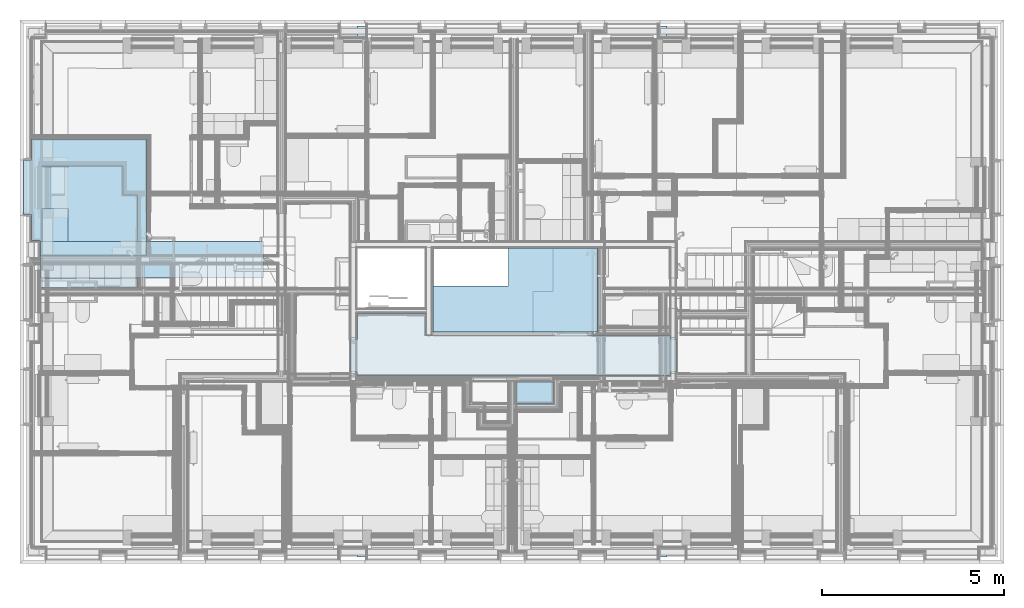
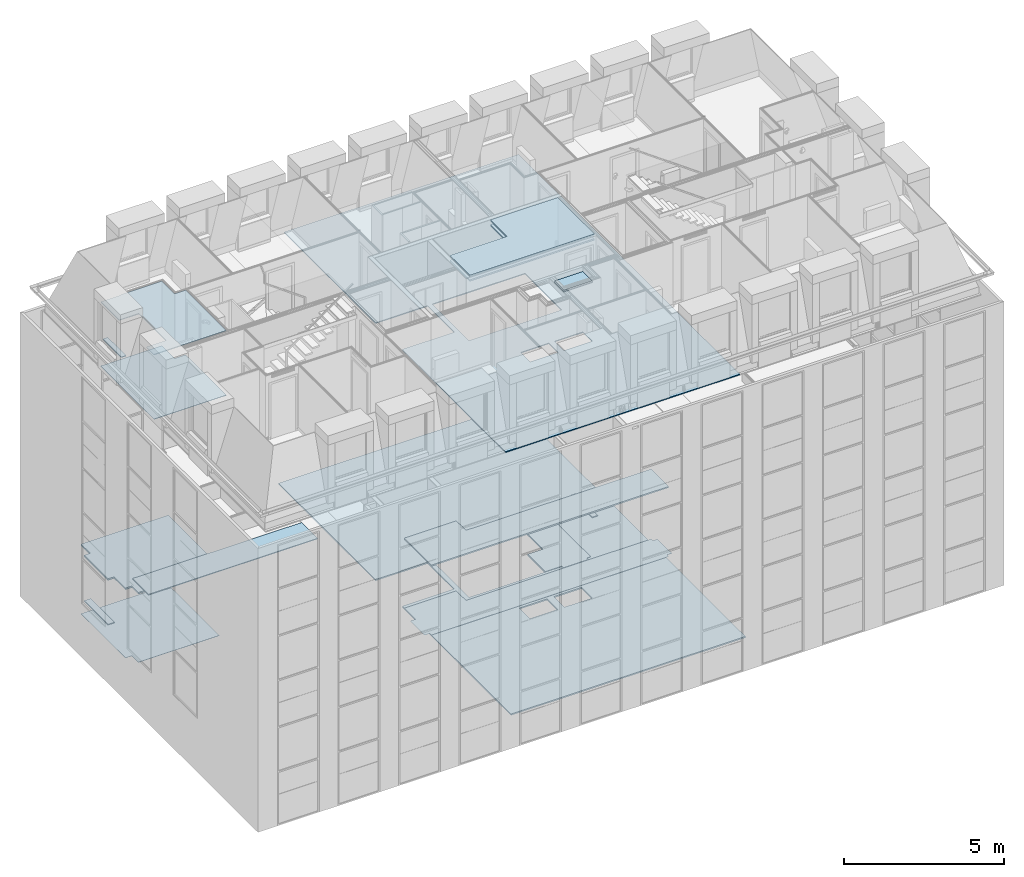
# One storey, part 72 of 169: 24 slabs.
"""IFC2X3 building model written with IfcOpenShell, lengths in metres."""

from ifc_helpers import new_model, entity, si_unit, converted_unit, derived_unit, money_unit, direction, frame, origin_with_axes, place, context, subcontext, project, spatial, faceted_brep, material, type_object, element, save


model = new_model("IFC2X3")

# Units and contexts
model_context = context("Model", 3, precision=1e-05, world=origin_with_axes(), true_north=direction((0.0, 1.0)))
body_context = subcontext(model_context, "Body", "Model", "MODEL_VIEW", scale=1.0)
ifc_project = project(units=[si_unit("LENGTHUNIT", "METRE"), si_unit("AREAUNIT", "SQUARE_METRE"), si_unit("VOLUMEUNIT", "CUBIC_METRE"), si_unit("ABSORBEDDOSEUNIT", "GRAY"), si_unit("AMOUNTOFSUBSTANCEUNIT", "MOLE"), si_unit("DOSEEQUIVALENTUNIT", "SIEVERT"), si_unit("ELECTRICCAPACITANCEUNIT", "FARAD"), si_unit("ELECTRICCHARGEUNIT", "COULOMB"), si_unit("ELECTRICCONDUCTANCEUNIT", "SIEMENS"), si_unit("ELECTRICCURRENTUNIT", "AMPERE"), si_unit("ELECTRICRESISTANCEUNIT", "OHM"), si_unit("ELECTRICVOLTAGEUNIT", "VOLT"), si_unit("ENERGYUNIT", "JOULE"), si_unit("FORCEUNIT", "NEWTON"), si_unit("FREQUENCYUNIT", "HERTZ"), si_unit("ILLUMINANCEUNIT", "LUX"), si_unit("INDUCTANCEUNIT", "HENRY"), si_unit("LUMINOUSFLUXUNIT", "LUMEN"), si_unit("LUMINOUSINTENSITYUNIT", "CANDELA"), si_unit("MAGNETICFLUXDENSITYUNIT", "TESLA"), si_unit("MAGNETICFLUXUNIT", "WEBER"), si_unit("MASSUNIT", "GRAM"), converted_unit("PLANEANGLEUNIT", "degree", entity("IfcReal", 0.0174532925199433), si_unit("PLANEANGLEUNIT", "RADIAN"), dimensions=[0, 0, 0, 0, 0, 0, 0]), si_unit("POWERUNIT", "WATT"), si_unit("PRESSUREUNIT", "PASCAL"), si_unit("RADIOACTIVITYUNIT", "BECQUEREL"), si_unit("SOLIDANGLEUNIT", "STERADIAN"), si_unit("THERMODYNAMICTEMPERATUREUNIT", "KELVIN"), si_unit("TIMEUNIT", "SECOND"), derived_unit("ACCELERATIONUNIT", [(si_unit("LENGTHUNIT", "METRE"), 1), (si_unit("TIMEUNIT", "SECOND"), -2)]), derived_unit("ANGULARVELOCITYUNIT", [(converted_unit("PLANEANGLEUNIT", "degree", entity("IfcReal", 0.0174532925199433), si_unit("PLANEANGLEUNIT", "RADIAN"), dimensions=[0, 0, 0, 0, 0, 0, 0]), 1), (si_unit("TIMEUNIT", "SECOND"), -1)]), derived_unit("CURVATUREUNIT", [(converted_unit("PLANEANGLEUNIT", "degree", entity("IfcReal", 0.0174532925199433), si_unit("PLANEANGLEUNIT", "RADIAN"), dimensions=[0, 0, 0, 0, 0, 0, 0]), 1), (si_unit("LENGTHUNIT", "METRE"), -1)]), derived_unit("DYNAMICVISCOSITYUNIT", [(si_unit("PRESSUREUNIT", "PASCAL"), 1), (si_unit("TIMEUNIT", "SECOND"), 1)]), derived_unit("HEATFLUXDENSITYUNIT", [(si_unit("POWERUNIT", "WATT"), 1), (si_unit("LENGTHUNIT", "METRE"), -2)]), derived_unit("HEATINGVALUEUNIT", [(si_unit("ENERGYUNIT", "JOULE"), 1), (si_unit("MASSUNIT", "GRAM"), -1)]), derived_unit("INTEGERCOUNTRATEUNIT", [(si_unit("TIMEUNIT", "SECOND"), -1)]), derived_unit("IONCONCENTRATIONUNIT", [(si_unit("MASSUNIT", "GRAM"), 1), (si_unit("VOLUMEUNIT", "CUBIC_METRE"), -1)]), derived_unit("ISOTHERMALMOISTURECAPACITYUNIT", [(si_unit("VOLUMEUNIT", "CUBIC_METRE"), 1), (si_unit("MASSUNIT", "GRAM"), -1)]), derived_unit("KINEMATICVISCOSITYUNIT", [(si_unit("AREAUNIT", "SQUARE_METRE"), 1), (si_unit("TIMEUNIT", "SECOND"), -1)]), derived_unit("LINEARFORCEUNIT", [(si_unit("FORCEUNIT", "NEWTON"), 1), (si_unit("LENGTHUNIT", "METRE"), -1)]), derived_unit("LINEARMOMENTUNIT", [(si_unit("FORCEUNIT", "NEWTON"), 1), (si_unit("LENGTHUNIT", "METRE"), -1)]), derived_unit("LINEARSTIFFNESSUNIT", [(si_unit("FORCEUNIT", "NEWTON"), 1), (si_unit("LENGTHUNIT", "METRE"), -1)]), derived_unit("LINEARVELOCITYUNIT", [(si_unit("LENGTHUNIT", "METRE"), 1), (si_unit("TIMEUNIT", "SECOND"), -1)]), derived_unit("LUMINOUSINTENSITYDISTRIBUTIONUNIT", [(si_unit("LUMINOUSINTENSITYUNIT", "CANDELA"), 1), (si_unit("LUMINOUSFLUXUNIT", "LUMEN"), -1)]), derived_unit("MASSDENSITYUNIT", [(si_unit("MASSUNIT", "GRAM"), 1), (si_unit("VOLUMEUNIT", "CUBIC_METRE"), -1)]), derived_unit("MASSFLOWRATEUNIT", [(si_unit("MASSUNIT", "GRAM"), 1), (si_unit("TIMEUNIT", "SECOND"), -1)]), derived_unit("MASSPERLENGTHUNIT", [(si_unit("MASSUNIT", "GRAM"), 1), (si_unit("LENGTHUNIT", "METRE"), -1)]), derived_unit("MODULUSOFELASTICITYUNIT", [(si_unit("FORCEUNIT", "NEWTON"), 1), (si_unit("AREAUNIT", "SQUARE_METRE"), -1)]), derived_unit("MODULUSOFLINEARSUBGRADEREACTIONUNIT", [(si_unit("FORCEUNIT", "NEWTON"), 1), (si_unit("LENGTHUNIT", "METRE"), -2)]), derived_unit("MODULUSOFROTATIONALSUBGRADEREACTIONUNIT", [(si_unit("FORCEUNIT", "NEWTON"), 1), (si_unit("LENGTHUNIT", "METRE"), 1)]), derived_unit("MODULUSOFSUBGRADEREACTIONUNIT", [(si_unit("FORCEUNIT", "NEWTON"), 1), (si_unit("VOLUMEUNIT", "CUBIC_METRE"), -1)]), derived_unit("MOISTUREDIFFUSIVITYUNIT", [(si_unit("VOLUMEUNIT", "CUBIC_METRE"), 1), (si_unit("TIMEUNIT", "SECOND"), -1)]), derived_unit("MOLECULARWEIGHTUNIT", [(si_unit("MASSUNIT", "GRAM"), 1), (si_unit("AMOUNTOFSUBSTANCEUNIT", "MOLE"), -1)]), derived_unit("PLANARFORCEUNIT", [(si_unit("FORCEUNIT", "NEWTON"), 1), (si_unit("LENGTHUNIT", "METRE"), -2)]), derived_unit("ROTATIONALFREQUENCYUNIT", [(si_unit("TIMEUNIT", "SECOND"), -1)]), derived_unit("ROTATIONALMASSUNIT", [(si_unit("MASSUNIT", "GRAM"), 1), (si_unit("LENGTHUNIT", "METRE"), 2)]), derived_unit("ROTATIONALSTIFFNESSUNIT", [(si_unit("FORCEUNIT", "NEWTON"), 1), (si_unit("LENGTHUNIT", "METRE"), 1), (converted_unit("PLANEANGLEUNIT", "degree", entity("IfcReal", 0.0174532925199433), si_unit("PLANEANGLEUNIT", "RADIAN"), dimensions=[0, 0, 0, 0, 0, 0, 0]), -1)]), derived_unit("SECTIONAREAINTEGRALUNIT", [(si_unit("LENGTHUNIT", "METRE"), 5)]), derived_unit("SECTIONMODULUSUNIT", [(si_unit("LENGTHUNIT", "METRE"), 3)]), derived_unit("SHEARMODULUSUNIT", [(si_unit("FORCEUNIT", "NEWTON"), 1), (si_unit("AREAUNIT", "SQUARE_METRE"), -1)]), derived_unit("SOUNDPOWERUNIT", [(si_unit("ENERGYUNIT", "JOULE"), 1), (si_unit("TIMEUNIT", "SECOND"), -1)]), derived_unit("SPECIFICHEATCAPACITYUNIT", [(si_unit("FORCEUNIT", "NEWTON"), 1), (si_unit("MASSUNIT", "GRAM"), -1), (si_unit("THERMODYNAMICTEMPERATUREUNIT", "KELVIN"), -1)]), derived_unit("TEMPERATUREGRADIENTUNIT", [(si_unit("THERMODYNAMICTEMPERATUREUNIT", "KELVIN"), 1), (si_unit("LENGTHUNIT", "METRE"), -1)]), derived_unit("THERMALADMITTANCEUNIT", [(si_unit("POWERUNIT", "WATT"), 1), (si_unit("AREAUNIT", "SQUARE_METRE"), -1), (si_unit("THERMODYNAMICTEMPERATUREUNIT", "KELVIN"), -1)]), derived_unit("THERMALCONDUCTANCEUNIT", [(si_unit("POWERUNIT", "WATT"), 1), (si_unit("LENGTHUNIT", "METRE"), -1), (si_unit("THERMODYNAMICTEMPERATUREUNIT", "KELVIN"), -1)]), derived_unit("THERMALEXPANSIONCOEFFICIENTUNIT", [(si_unit("THERMODYNAMICTEMPERATUREUNIT", "KELVIN"), -1)]), derived_unit("THERMALRESISTANCEUNIT", [(si_unit("AREAUNIT", "SQUARE_METRE"), 1), (si_unit("POWERUNIT", "WATT"), -1)]), derived_unit("THERMALTRANSMITTANCEUNIT", [(si_unit("POWERUNIT", "WATT"), 1), (si_unit("AREAUNIT", "SQUARE_METRE"), -1), (si_unit("THERMODYNAMICTEMPERATUREUNIT", "KELVIN"), -1)]), derived_unit("TORQUEUNIT", [(si_unit("FORCEUNIT", "NEWTON"), 1), (si_unit("LENGTHUNIT", "METRE"), 1)]), derived_unit("VAPORPERMEABILITYUNIT", [(si_unit("MASSUNIT", "GRAM"), 1), (si_unit("TIMEUNIT", "SECOND"), -1)]), derived_unit("VOLUMETRICFLOWRATEUNIT", [(si_unit("VOLUMEUNIT", "CUBIC_METRE"), 1), (si_unit("TIMEUNIT", "SECOND"), -1)]), derived_unit("WARPINGCONSTANTUNIT", [(si_unit("LENGTHUNIT", "METRE"), 6)]), derived_unit("WARPINGMOMENTUNIT", [(si_unit("FORCEUNIT", "NEWTON"), 1), (si_unit("LENGTHUNIT", "METRE"), 2)]), money_unit("GBP")], contexts=[model_context])

# Site, building, storey
site_placement = place(None, origin_with_axes())
site = spatial("IfcSite", under=ifc_project, at=site_placement, Name="Site", CompositionType="ELEMENT")
building_placement = place(site_placement, origin_with_axes())
building = spatial("IfcBuilding", under=site, at=building_placement, Name="Building01", CompositionType="ELEMENT")
storey_placement = place(building_placement, frame((0.0, 0.0, 5.15), z_axis=(0.0, 0.0, 1.0), x_axis=(1.0, 0.0, 0.0)))
storey = spatial("IfcBuildingStorey", under=building, at=storey_placement, Name="1F", CompositionType="ELEMENT", Elevation=5.15)

# Slabs
ifc_material_1 = material(Name="A_BSUK_InternalFinishes_FloorScreed")
slab_type_1 = type_object("IfcSlabType", Name="A-FloorsSlabs A_BSUK_Slabs", PredefinedType="FLOOR")
placement = place(storey_placement, frame((0.0, 0.0, -5.15), z_axis=(0.0, 0.0, 1.0), x_axis=(1.0, 0.0, 0.0)))
element("IfcSlab", 1, at=placement, inside=storey, type_object=slab_type_1, material=ifc_material_1, Name="A-FloorsSlabs A_BSUK_Slabs", ObjectType="CompoundSlabLeaf", context=body_context, shape_type="Brep", body=[
    faceted_brep([(11.13, 8.65, 5.15), (11.13, 6.98, 5.15), (9.25, 6.98, 5.15), (9.25, 0.17, 5.15), (17.73, 0.17, 5.15), (17.73, 14.73, 5.15), (9.25, 14.73, 5.15), (9.25, 8.65, 5.15), (13.375, 5.05385, 5.15), (13.375, 4.389428, 5.15), (12.375, 4.389428, 5.15), (12.375, 5.05385, 5.15), (14.625, 5.05385, 5.15), (14.625, 4.389428, 5.15), (13.625, 4.389428, 5.15), (13.625, 5.05385, 5.15), (14.059316, 6.35, 5.15), (11.3, 6.35, 5.15), (11.3, 8.65, 5.15), (14.609584, 8.65, 5.15), (14.609584, 7.454282, 5.15), (14.059316, 7.454282, 5.15), (11.13, 8.65, 5.1), (9.25, 8.65, 5.1), (9.25, 14.73, 5.1), (17.73, 14.73, 5.1), (17.73, 0.17, 5.1), (9.25, 0.17, 5.1), (9.25, 6.98, 5.1), (11.13, 6.98, 5.1), (13.375, 5.05385, 5.1), (12.375, 5.05385, 5.1), (12.375, 4.389428, 5.1), (13.375, 4.389428, 5.1), (14.059316, 6.35, 5.1), (14.059316, 7.454282, 5.1), (14.609584, 7.454282, 5.1), (14.609584, 8.65, 5.1), (11.3, 8.65, 5.1), (11.3, 6.35, 5.1), (14.625, 5.05385, 5.1), (13.625, 5.05385, 5.1), (13.625, 4.389428, 5.1), (14.625, 4.389428, 5.1)], [[[0, 1, 2, 3, 4, 5, 6, 7], [8, 9, 10, 11], [12, 13, 14, 15], [16, 17, 18, 19, 20, 21]], [[22, 23, 24, 25, 26, 27, 28, 29], [30, 31, 32, 33], [34, 35, 36, 37, 38, 39], [40, 41, 42, 43]], [[23, 7, 6, 24]], [[2, 28, 27, 3]], [[35, 21, 20, 36]], [[24, 6, 5, 25]], [[26, 4, 3, 27]], [[25, 5, 4, 26]], [[15, 41, 40, 12]], [[12, 40, 43, 13]], [[13, 43, 42, 14]], [[14, 42, 41, 15]], [[11, 31, 30, 8]], [[8, 30, 33, 9]], [[9, 33, 32, 10]], [[10, 32, 31, 11]], [[18, 38, 37, 19]], [[19, 37, 36, 20]], [[17, 39, 38, 18]], [[16, 34, 39, 17]], [[21, 35, 34, 16]], [[0, 22, 29, 1]], [[7, 23, 22, 0]], [[1, 29, 28, 2]]]),
])
ifc_material_2 = material(Name="A_BSUK_Ceramic_WallTiles")
element("IfcSlab", 2, at=placement, inside=storey, type_object=slab_type_1, material=ifc_material_2, Name="A-FloorsSlabs A_BSUK_Slabs", ObjectType="CompoundSlabLeaf", context=body_context, shape_type="Brep", body=[
    faceted_brep([(16.03, 6.475, 6.525), (16.03, 6.475, 6.55), (15.83, 6.475, 6.55), (15.83, 6.475, 6.525), (16.03, 7.849998, 6.525), (16.03, 7.849998, 6.55), (15.830003, 7.85, 6.525), (15.830003, 7.85, 6.55)], [[[0, 1, 2, 3]], [[4, 5, 1, 0]], [[6, 7, 5, 4]], [[3, 2, 7, 6]], [[1, 5, 7, 2]], [[3, 6, 4, 0]]]),
])
ifc_material_3 = material(Name="A_BSUK_ExpandedPolystyreneBoards")
element("IfcSlab", 3, at=placement, inside=storey, type_object=slab_type_1, material=ifc_material_3, Name="A-FloorsSlabs A_BSUK_Slabs", ObjectType="CompoundSlabLeaf", context=body_context, shape_type="Brep", body=[
    faceted_brep([(9.25, 6.15, 5.15), (9.25, 6.15, 5.153), (9.25, 6.85, 5.153), (9.25, 6.85, 5.15), (9.06, 6.15, 5.15), (9.06, 6.15, 5.153), (9.06, 5.25, 5.15), (9.06, 5.25, 5.153), (9.25, 5.25, 5.15), (9.25, 5.25, 5.153), (9.25, 5.15, 5.15), (9.25, 5.15, 5.153), (17.83, 5.15, 5.15), (17.83, 5.15, 5.153), (17.83, 5.25, 5.15), (17.83, 5.25, 5.153), (18.0, 5.25, 5.15), (18.0, 5.25, 5.153), (18.0, 6.15, 5.15), (18.0, 6.15, 5.153), (17.83, 6.15, 5.15), (17.83, 6.15, 5.153), (17.83, 6.25, 5.15), (17.83, 6.25, 5.153), (15.558, 6.25, 5.15), (15.558, 6.25, 5.153), (15.558, 6.35, 5.15), (15.558, 6.35, 5.153), (15.6, 6.35, 5.15), (15.6, 6.35, 5.153), (15.7, 6.35, 5.15), (15.7, 6.35, 5.153), (15.7, 8.65, 5.15), (15.7, 8.65, 5.153), (14.609584, 8.65, 5.15), (14.609584, 8.65, 5.153), (14.609584, 7.454282, 5.15), (14.609584, 7.454282, 5.153), (14.059316, 7.454282, 5.15), (14.059316, 7.454282, 5.153), (14.059316, 6.35, 5.15), (14.059316, 6.35, 5.153), (14.658, 6.35, 5.15), (14.658, 6.35, 5.153), (14.658, 6.25, 5.15), (14.658, 6.25, 5.153), (11.13, 6.25, 5.15), (11.13, 6.25, 5.153), (11.13, 6.85, 5.15), (11.13, 6.85, 5.153)], [[[0, 1, 2, 3]], [[4, 5, 1, 0]], [[6, 7, 5, 4]], [[8, 9, 7, 6]], [[10, 11, 9, 8]], [[12, 13, 11, 10]], [[14, 15, 13, 12]], [[16, 17, 15, 14]], [[18, 19, 17, 16]], [[20, 21, 19, 18]], [[22, 23, 21, 20]], [[24, 25, 23, 22]], [[26, 27, 25, 24]], [[28, 29, 27, 26]], [[30, 31, 29, 28]], [[32, 33, 31, 30]], [[34, 35, 33, 32]], [[36, 37, 35, 34]], [[38, 39, 37, 36]], [[40, 41, 39, 38]], [[42, 43, 41, 40]], [[44, 45, 43, 42]], [[46, 47, 45, 44]], [[48, 49, 47, 46]], [[3, 2, 49, 48]], [[1, 5, 7, 9, 11, 13, 15, 17, 19, 21, 23, 25, 27, 29, 31, 33, 35, 37, 39, 41, 43, 45, 47, 49, 2]], [[3, 48, 46, 44, 42, 40, 38, 36, 34, 32, 30, 28, 26, 24, 22, 20, 18, 16, 14, 12, 10, 8, 6, 4, 0]]]),
])
ifc_material_4 = material(Name="A_BSUK_Carpet-Pile")
element("IfcSlab", 4, at=placement, inside=storey, type_object=slab_type_1, material=ifc_material_4, Name="A-FloorsSlabs A_BSUK_Slabs", ObjectType="CompoundSlabLeaf", context=body_context, shape_type="Brep", body=[
    faceted_brep([(0.318, 11.63067, 5.153), (0.318, 11.63067, 5.165), (3.474669, 11.63067, 5.165), (3.474669, 11.63067, 5.153), (0.318, 11.055, 5.153), (0.318, 11.055, 5.165), (0.318, 9.56218, 5.153), (0.318, 9.56218, 5.165), (0.318, 8.848, 5.153), (0.318, 8.848, 5.165), (0.548, 8.848, 5.153), (0.548, 8.848, 5.165), (0.548, 8.43567, 5.153), (0.548, 8.43567, 5.165), (3.474669, 8.43567, 5.153), (3.474669, 8.43567, 5.165)], [[[0, 1, 2, 3]], [[4, 5, 1, 0]], [[6, 7, 5, 4]], [[8, 9, 7, 6]], [[10, 11, 9, 8]], [[12, 13, 11, 10]], [[14, 15, 13, 12]], [[3, 2, 15, 14]], [[1, 5, 7, 9, 11, 13, 15, 2]], [[3, 14, 12, 10, 8, 6, 4, 0]]]),
])
element("IfcSlab", 5, at=placement, inside=storey, type_object=slab_type_1, material=ifc_material_4, Name="A-FloorsSlabs A_BSUK_Slabs", ObjectType="CompoundSlabLeaf", context=body_context, shape_type="Brep", body=[
    faceted_brep([(14.609584, 7.454282, 5.153), (14.609584, 7.454282, 5.165), (14.609584, 8.65, 5.165), (14.609584, 8.65, 5.153), (14.059316, 7.454282, 5.153), (14.059316, 7.454282, 5.165), (14.059316, 6.35, 5.153), (14.059316, 6.35, 5.165), (14.658, 6.35, 5.153), (14.658, 6.35, 5.165), (14.658, 6.25, 5.153), (14.658, 6.25, 5.165), (15.558, 6.25, 5.153), (15.558, 6.25, 5.165), (15.558, 6.35, 5.153), (15.558, 6.35, 5.165), (15.7, 6.35, 5.153), (15.7, 6.35, 5.165), (15.7, 8.65, 5.153), (15.7, 8.65, 5.165)], [[[0, 1, 2, 3]], [[4, 5, 1, 0]], [[6, 7, 5, 4]], [[8, 9, 7, 6]], [[10, 11, 9, 8]], [[12, 13, 11, 10]], [[14, 15, 13, 12]], [[16, 17, 15, 14]], [[18, 19, 17, 16]], [[3, 2, 19, 18]], [[1, 5, 7, 9, 11, 13, 15, 17, 19, 2]], [[3, 18, 16, 14, 12, 10, 8, 6, 4, 0]]]),
])
ifc_material_5 = material(Name="A_BSUK_CeilingSoffitFinishes_Suspended")
element("IfcSlab", 6, at=placement, inside=storey, type_object=slab_type_1, material=ifc_material_5, Name="A-FloorsSlabs A_BSUK_Slabs", ObjectType="CompoundSlabLeaf", context=body_context, shape_type="Brep", body=[
    faceted_brep([(0.318, 11.63067, 7.765), (0.318, 11.63067, 7.78), (3.474669, 11.63067, 7.78), (3.474669, 11.63067, 7.765), (0.318, 11.055, 7.765), (0.318, 11.055, 7.78), (0.1, 11.055, 7.765), (0.1, 11.055, 7.78), (0.1, 9.56218, 7.765), (0.1, 9.56218, 7.78), (0.318, 9.56218, 7.765), (0.318, 9.56218, 7.78), (0.318, 8.848, 7.765), (0.318, 8.848, 7.78), (0.548, 8.848, 7.765), (0.548, 8.848, 7.78), (0.548, 8.43567, 7.765), (0.548, 8.43567, 7.78), (3.474669, 8.43567, 7.765), (3.474669, 8.43567, 7.78)], [[[0, 1, 2, 3]], [[4, 5, 1, 0]], [[6, 7, 5, 4]], [[8, 9, 7, 6]], [[10, 11, 9, 8]], [[12, 13, 11, 10]], [[14, 15, 13, 12]], [[16, 17, 15, 14]], [[18, 19, 17, 16]], [[3, 2, 19, 18]], [[1, 5, 7, 9, 11, 13, 15, 17, 19, 2]], [[3, 18, 16, 14, 12, 10, 8, 6, 4, 0]]]),
])
ifc_material_6 = material(Name="A_BSUK_Timber_Miscellaneous")
element("IfcSlab", 7, at=placement, inside=storey, type_object=slab_type_1, material=ifc_material_6, Name="A-FloorsSlabs A_BSUK_Slabs", ObjectType="CompoundSlabLeaf", context=body_context, shape_type="Brep", body=[
    faceted_brep([(0.333, 9.56218, 6.065), (0.333, 9.56218, 6.09), (0.099998, 9.56218, 6.09), (0.099998, 9.56218, 6.065), (0.333, 11.055, 6.065), (0.333, 11.055, 6.09), (0.1, 11.055, 6.065), (0.1, 11.055, 6.09)], [[[0, 1, 2, 3]], [[4, 5, 1, 0]], [[6, 7, 5, 4]], [[3, 2, 7, 6]], [[1, 5, 7, 2]], [[3, 6, 4, 0]]]),
])
element("IfcSlab", 8, at=placement, inside=storey, type_object=slab_type_1, material=ifc_material_5, Name="A-FloorsSlabs A_BSUK_Slabs", ObjectType="CompoundSlabLeaf", context=body_context, shape_type="Brep", body=[
    faceted_brep([(0.563, 7.82317, 8.115), (0.563, 7.82317, 8.13), (0.563, 8.82317, 8.13), (0.563, 8.82317, 8.115), (6.677169, 7.82317, 8.115), (6.677169, 7.82317, 8.13), (6.677169, 8.82317, 8.115), (6.677169, 8.82317, 8.13)], [[[0, 1, 2, 3]], [[4, 5, 1, 0]], [[6, 7, 5, 4]], [[3, 2, 7, 6]], [[1, 5, 7, 2]], [[3, 6, 4, 0]]]),
])
element("IfcSlab", 9, at=placement, inside=storey, type_object=slab_type_1, material=ifc_material_5, Name="A-FloorsSlabs A_BSUK_Slabs", ObjectType="CompoundSlabLeaf", context=body_context, shape_type="Brep", body=[
    faceted_brep([(0.563, 7.82317, 8.1), (0.563, 7.82317, 8.115), (0.563, 8.82317, 8.115), (0.563, 8.82317, 8.1), (6.677169, 7.82317, 8.1), (6.677169, 7.82317, 8.115), (6.677169, 8.82317, 8.1), (6.677169, 8.82317, 8.115)], [[[0, 1, 2, 3]], [[4, 5, 1, 0]], [[6, 7, 5, 4]], [[3, 2, 7, 6]], [[1, 5, 7, 2]], [[3, 6, 4, 0]]]),
])
element("IfcSlab", 10, at=placement, inside=storey, type_object=slab_type_1, material=ifc_material_5, Name="A-FloorsSlabs A_BSUK_Slabs", ObjectType="CompoundSlabLeaf", context=body_context, shape_type="Brep", body=[
    faceted_brep([(1.336179, 10.899939, 17.423), (1.336179, 10.899939, 17.438), (2.82, 10.899939, 17.438), (2.82, 10.899939, 17.423), (1.336179, 10.874915, 17.423), (1.336179, 10.874915, 17.438), (0.599939, 10.874915, 17.423), (0.599939, 10.874915, 17.438), (0.599939, 9.724964, 17.423), (0.599939, 9.724964, 17.438), (1.312402, 9.724964, 17.423), (1.312402, 9.724964, 17.438), (1.312402, 8.024915, 17.423), (1.312402, 8.024915, 17.438), (0.599939, 8.024915, 17.423), (0.599939, 8.024915, 17.438), (0.599939, 7.550061, 17.423), (0.599939, 7.550061, 17.438), (3.22, 7.550061, 17.423), (3.22, 7.550061, 17.438), (3.22, 10.099939, 17.423), (3.22, 10.099939, 17.438), (2.82, 10.099939, 17.423), (2.82, 10.099939, 17.438)], [[[0, 1, 2, 3]], [[4, 5, 1, 0]], [[6, 7, 5, 4]], [[8, 9, 7, 6]], [[10, 11, 9, 8]], [[12, 13, 11, 10]], [[14, 15, 13, 12]], [[16, 17, 15, 14]], [[18, 19, 17, 16]], [[20, 21, 19, 18]], [[22, 23, 21, 20]], [[3, 2, 23, 22]], [[1, 5, 7, 9, 11, 13, 15, 17, 19, 21, 23, 2]], [[3, 22, 20, 18, 16, 14, 12, 10, 8, 6, 4, 0]]]),
])
element("IfcSlab", 11, at=placement, inside=storey, type_object=slab_type_1, material=ifc_material_1, Name="A-FloorsSlabs A_BSUK_Slabs", ObjectType="CompoundSlabLeaf", context=body_context, shape_type="Brep", body=[
    faceted_brep([(11.13, 8.65, 14.965), (11.13, 6.98, 14.965), (9.25, 6.98, 14.965), (9.25, 0.52, 14.965), (17.73, 0.52, 14.965), (17.73, 14.38, 14.965), (9.25, 14.38, 14.965), (9.25, 8.65, 14.965), (14.625, 4.973943, 14.965), (14.625, 4.389428, 14.965), (13.6, 4.389428, 14.965), (13.6, 4.973943, 14.965), (13.4, 4.98, 14.965), (13.4, 4.389428, 14.965), (12.375, 4.389428, 14.965), (12.375, 4.98, 14.965), (14.653574, 8.65, 14.965), (14.653574, 6.35, 14.965), (11.3, 6.35, 14.965), (11.3, 8.65, 14.965), (11.13, 8.65, 14.93), (9.25, 8.65, 14.93), (9.25, 14.38, 14.93), (17.73, 14.38, 14.93), (17.73, 0.52, 14.93), (9.25, 0.52, 14.93), (9.25, 6.98, 14.93), (11.13, 6.98, 14.93), (13.4, 4.98, 14.93), (12.375, 4.98, 14.93), (12.375, 4.389428, 14.93), (13.4, 4.389428, 14.93), (14.653574, 8.65, 14.93), (11.3, 8.65, 14.93), (11.3, 6.35, 14.93), (14.653574, 6.35, 14.93), (14.625, 4.973943, 14.93), (13.6, 4.973943, 14.93), (13.6, 4.389428, 14.93), (14.625, 4.389428, 14.93)], [[[0, 1, 2, 3, 4, 5, 6, 7], [8, 9, 10, 11], [12, 13, 14, 15], [16, 17, 18, 19]], [[20, 21, 22, 23, 24, 25, 26, 27], [28, 29, 30, 31], [32, 33, 34, 35], [36, 37, 38, 39]], [[21, 7, 6, 22]], [[2, 26, 25, 3]], [[22, 6, 5, 23]], [[24, 4, 3, 25]], [[23, 5, 4, 24]], [[11, 37, 36, 8]], [[8, 36, 39, 9]], [[9, 39, 38, 10]], [[10, 38, 37, 11]], [[15, 29, 28, 12]], [[12, 28, 31, 13]], [[13, 31, 30, 14]], [[14, 30, 29, 15]], [[19, 33, 32, 16]], [[16, 32, 35, 17]], [[17, 35, 34, 18]], [[18, 34, 33, 19]], [[0, 20, 27, 1]], [[7, 21, 20, 0]], [[1, 27, 26, 2]]]),
])
element("IfcSlab", 12, at=placement, inside=storey, type_object=slab_type_1, material=ifc_material_3, Name="A-FloorsSlabs A_BSUK_Slabs", ObjectType="CompoundSlabLeaf", context=body_context, shape_type="Brep", body=[
    faceted_brep([(0.6038, 10.899915, 14.965), (0.6038, 10.899915, 14.968), (2.82, 10.899915, 14.968), (2.82, 10.899915, 14.965), (0.6038, 10.874915, 14.965), (0.6038, 10.874915, 14.968), (0.6038, 9.724964, 14.965), (0.6038, 9.724964, 14.968), (0.6038, 8.024915, 14.965), (0.6038, 8.024915, 14.968), (0.6038, 7.550061, 14.965), (0.6038, 7.550061, 14.968), (3.22, 7.550026, 14.965), (3.22, 7.550026, 14.968), (3.22, 10.099939, 14.965), (3.22, 10.099939, 14.968), (2.82, 10.099939, 14.965), (2.82, 10.099939, 14.968)], [[[0, 1, 2, 3]], [[4, 5, 1, 0]], [[6, 7, 5, 4]], [[8, 9, 7, 6]], [[10, 11, 9, 8]], [[12, 13, 11, 10]], [[14, 15, 13, 12]], [[16, 17, 15, 14]], [[3, 2, 17, 16]], [[1, 5, 7, 9, 11, 13, 15, 17, 2]], [[3, 16, 14, 12, 10, 8, 6, 4, 0]]]),
])
element("IfcSlab", 13, at=placement, inside=storey, type_object=slab_type_1, material=ifc_material_6, Name="A-FloorsSlabs A_BSUK_Slabs", ObjectType="CompoundSlabLeaf", context=body_context, shape_type="Brep", body=[
    faceted_brep([(0.849939, 9.724915, 15.98), (0.849939, 9.724915, 16.005), (0.675339, 9.724915, 16.005), (0.675339, 9.724915, 15.98), (0.849939, 10.874915, 15.98), (0.849939, 10.874915, 16.005), (0.675339, 10.874915, 15.98), (0.675339, 10.874915, 16.005)], [[[0, 1, 2, 3]], [[4, 5, 1, 0]], [[6, 7, 5, 4]], [[3, 2, 7, 6]], [[1, 5, 7, 2]], [[3, 6, 4, 0]]]),
])
element("IfcSlab", 14, at=placement, inside=storey, type_object=slab_type_1, material=ifc_material_5, Name="A-FloorsSlabs A_BSUK_Slabs", ObjectType="CompoundSlabLeaf", context=body_context, shape_type="Brep", body=[
    faceted_brep([(1.336179, 10.899939, 17.438), (1.336179, 10.899939, 17.453), (2.82, 10.899939, 17.453), (2.82, 10.899939, 17.438), (1.336179, 10.874915, 17.438), (1.336179, 10.874915, 17.453), (0.599939, 10.874915, 17.438), (0.599939, 10.874915, 17.453), (0.599939, 9.724964, 17.438), (0.599939, 9.724964, 17.453), (1.312402, 9.724964, 17.438), (1.312402, 9.724964, 17.453), (1.312402, 8.024915, 17.438), (1.312402, 8.024915, 17.453), (0.599939, 8.024915, 17.438), (0.599939, 8.024915, 17.453), (0.599939, 7.550061, 17.438), (0.599939, 7.550061, 17.453), (3.22, 7.550061, 17.438), (3.22, 7.550061, 17.453), (3.22, 10.099939, 17.438), (3.22, 10.099939, 17.453), (2.82, 10.099939, 17.438), (2.82, 10.099939, 17.453)], [[[0, 1, 2, 3]], [[4, 5, 1, 0]], [[6, 7, 5, 4]], [[8, 9, 7, 6]], [[10, 11, 9, 8]], [[12, 13, 11, 10]], [[14, 15, 13, 12]], [[16, 17, 15, 14]], [[18, 19, 17, 16]], [[20, 21, 19, 18]], [[22, 23, 21, 20]], [[3, 2, 23, 22]], [[1, 5, 7, 9, 11, 13, 15, 17, 19, 21, 23, 2]], [[3, 22, 20, 18, 16, 14, 12, 10, 8, 6, 4, 0]]]),
])
element("IfcSlab", 15, at=placement, inside=storey, type_object=slab_type_1, material=ifc_material_5, Name="A-FloorsSlabs A_BSUK_Slabs", ObjectType="CompoundSlabLeaf", context=body_context, shape_type="Brep", body=[
    faceted_brep([(11.33, 6.35, 17.438), (11.33, 6.35, 17.453), (11.33, 7.599939, 17.453), (11.33, 7.599939, 17.438), (15.83844, 6.35, 17.438), (15.83844, 6.35, 17.453), (15.83844, 8.65, 17.438), (15.83844, 8.65, 17.453), (13.4, 8.65, 17.438), (13.4, 8.65, 17.453), (13.4, 7.599939, 17.438), (13.4, 7.599939, 17.453)], [[[0, 1, 2, 3]], [[4, 5, 1, 0]], [[6, 7, 5, 4]], [[8, 9, 7, 6]], [[10, 11, 9, 8]], [[3, 2, 11, 10]], [[1, 5, 7, 9, 11, 2]], [[3, 10, 8, 6, 4, 0]]]),
])
element("IfcSlab", 16, at=placement, inside=storey, type_object=slab_type_1, material=ifc_material_5, Name="A-FloorsSlabs A_BSUK_Slabs", ObjectType="CompoundSlabLeaf", context=body_context, shape_type="Brep", body=[
    faceted_brep([(11.33, 6.35, 17.408), (11.33, 6.35, 17.423), (11.33, 7.599939, 17.423), (11.33, 7.599939, 17.408), (15.83844, 6.35, 17.408), (15.83844, 6.35, 17.423), (15.83844, 8.65, 17.408), (15.83844, 8.65, 17.423), (13.4, 8.65, 17.408), (13.4, 8.65, 17.423), (13.4, 7.599939, 17.408), (13.4, 7.599939, 17.423)], [[[0, 1, 2, 3]], [[4, 5, 1, 0]], [[6, 7, 5, 4]], [[8, 9, 7, 6]], [[10, 11, 9, 8]], [[3, 2, 11, 10]], [[1, 5, 7, 9, 11, 2]], [[3, 10, 8, 6, 4, 0]]]),
])
element("IfcSlab", 17, at=placement, inside=storey, type_object=slab_type_1, material=ifc_material_5, Name="A-FloorsSlabs A_BSUK_Slabs", ObjectType="CompoundSlabLeaf", context=body_context, shape_type="Brep", body=[
    faceted_brep([(11.33, 6.35, 17.423), (11.33, 6.35, 17.438), (11.33, 7.599939, 17.438), (11.33, 7.599939, 17.423), (15.83844, 6.35, 17.423), (15.83844, 6.35, 17.438), (15.83844, 8.65, 17.423), (15.83844, 8.65, 17.438), (13.4, 8.65, 17.423), (13.4, 8.65, 17.438), (13.4, 7.599939, 17.423), (13.4, 7.599939, 17.438)], [[[0, 1, 2, 3]], [[4, 5, 1, 0]], [[6, 7, 5, 4]], [[8, 9, 7, 6]], [[10, 11, 9, 8]], [[3, 2, 11, 10]], [[1, 5, 7, 9, 11, 2]], [[3, 10, 8, 6, 4, 0]]]),
])
element("IfcSlab", 18, at=placement, inside=storey, type_object=slab_type_1, material=ifc_material_5, Name="A-FloorsSlabs A_BSUK_Slabs", ObjectType="CompoundSlabLeaf", context=body_context, shape_type="Brep", body=[
    faceted_brep([(11.33, 6.35, 17.208), (11.33, 6.35, 17.223), (11.33, 7.599939, 17.223), (11.33, 7.599939, 17.208), (15.83844, 6.35, 17.208), (15.83844, 6.35, 17.223), (15.83844, 8.65, 17.208), (15.83844, 8.65, 17.223), (13.4, 8.65, 17.208), (13.4, 8.65, 17.223), (13.4, 7.599939, 17.208), (13.4, 7.599939, 17.223)], [[[0, 1, 2, 3]], [[4, 5, 1, 0]], [[6, 7, 5, 4]], [[8, 9, 7, 6]], [[10, 11, 9, 8]], [[3, 2, 11, 10]], [[1, 5, 7, 9, 11, 2]], [[3, 10, 8, 6, 4, 0]]]),
])
element("IfcSlab", 19, at=placement, inside=storey, type_object=slab_type_1, material=ifc_material_5, Name="A-FloorsSlabs A_BSUK_Slabs", ObjectType="CompoundSlabLeaf", context=body_context, shape_type="Brep", body=[
    faceted_brep([(14.625, 4.389428, 17.208), (14.625, 4.389428, 17.223), (13.975, 4.389428, 17.223), (13.975, 4.389428, 17.208), (14.625, 4.98, 17.208), (14.625, 4.98, 17.223), (13.6, 4.98, 17.208), (13.6, 4.98, 17.223), (13.6, 4.389428, 17.208), (13.6, 4.389428, 17.223)], [[[0, 1, 2, 3]], [[4, 5, 1, 0]], [[6, 7, 5, 4]], [[8, 9, 7, 6]], [[3, 2, 9, 8]], [[1, 5, 7, 9, 2]], [[3, 8, 6, 4, 0]]]),
])
ifc_material_7 = material(Name="A_BSUK_Ceramic_FloorTiles")
slab_type_2 = type_object("IfcSlabType", Name="A-Finishes A_BSUK_Ceramic_FloorTiles", PredefinedType="FLOOR")
element("IfcSlab", 20, at=placement, inside=storey, type_object=slab_type_2, material=ifc_material_7, Name="A-Finishes A_BSUK_Ceramic_FloorTiles", ObjectType="CompoundSlabLeaf", context=body_context, shape_type="Brep", body=[
    faceted_brep([(0.6038, 10.899915, 14.968), (0.6038, 10.899915, 14.98), (2.82, 10.899915, 14.98), (2.82, 10.899915, 14.968), (0.6038, 10.874915, 14.968), (0.6038, 10.874915, 14.98), (0.6038, 9.724964, 14.968), (0.6038, 9.724964, 14.98), (0.6038, 8.024915, 14.968), (0.6038, 8.024915, 14.98), (0.6038, 7.550061, 14.968), (0.6038, 7.550061, 14.98), (3.22, 7.550026, 14.968), (3.22, 7.550026, 14.98), (3.22, 10.099939, 14.968), (3.22, 10.099939, 14.98), (2.82, 10.099939, 14.968), (2.82, 10.099939, 14.98)], [[[0, 1, 2, 3]], [[4, 5, 1, 0]], [[6, 7, 5, 4]], [[8, 9, 7, 6]], [[10, 11, 9, 8]], [[12, 13, 11, 10]], [[14, 15, 13, 12]], [[16, 17, 15, 14]], [[3, 2, 17, 16]], [[1, 5, 7, 9, 11, 13, 15, 17, 2]], [[3, 16, 14, 12, 10, 8, 6, 4, 0]]]),
])
slab_type_3 = type_object("IfcSlabType", Name="A-FloorsSlabs A_BSUK_ExpandedPolystyreneBoards", PredefinedType="FLOOR")
element("IfcSlab", 21, at=placement, inside=storey, type_object=slab_type_3, material=ifc_material_3, Name="A-FloorsSlabs A_BSUK_ExpandedPolystyreneBoards", ObjectType="CompoundSlabLeaf", context=body_context, shape_type="Brep", body=[
    faceted_brep([(0.318, 11.63067, 7.78), (0.318, 11.63067, 7.83), (3.474669, 11.63067, 7.83), (3.474669, 11.63067, 7.78), (0.318, 11.055, 7.78), (0.318, 11.055, 7.83), (0.1, 11.055, 7.78), (0.1, 11.055, 7.83), (0.1, 9.56218, 7.78), (0.1, 9.56218, 7.83), (0.318, 9.56218, 7.78), (0.318, 9.56218, 7.83), (0.318, 8.848, 7.78), (0.318, 8.848, 7.83), (0.548, 8.848, 7.78), (0.548, 8.848, 7.83), (0.548, 8.43567, 7.78), (0.548, 8.43567, 7.83), (3.474669, 8.43567, 7.78), (3.474669, 8.43567, 7.83)], [[[0, 1, 2, 3]], [[4, 5, 1, 0]], [[6, 7, 5, 4]], [[8, 9, 7, 6]], [[10, 11, 9, 8]], [[12, 13, 11, 10]], [[14, 15, 13, 12]], [[16, 17, 15, 14]], [[18, 19, 17, 16]], [[3, 2, 19, 18]], [[1, 5, 7, 9, 11, 13, 15, 17, 19, 2]], [[3, 18, 16, 14, 12, 10, 8, 6, 4, 0]]]),
])
element("IfcSlab", 22, at=placement, inside=storey, type_object=slab_type_3, material=ifc_material_3, Name="A-FloorsSlabs A_BSUK_ExpandedPolystyreneBoards", ObjectType="CompoundSlabLeaf", context=body_context, shape_type="Brep", body=[
    faceted_brep([(9.25, 5.15, 7.78), (9.25, 5.15, 7.83), (9.25, 6.85, 7.83), (9.25, 6.85, 7.78), (17.83, 5.15, 7.78), (17.83, 5.15, 7.83), (17.83, 6.25, 7.78), (17.83, 6.25, 7.83), (15.679803, 6.25, 7.78), (15.679803, 6.25, 7.83), (11.13, 6.25, 7.78), (11.13, 6.25, 7.83), (11.13, 6.85, 7.78), (11.13, 6.85, 7.83)], [[[0, 1, 2, 3]], [[4, 5, 1, 0]], [[6, 7, 5, 4]], [[8, 9, 7, 6]], [[10, 11, 9, 8]], [[12, 13, 11, 10]], [[3, 2, 13, 12]], [[1, 5, 7, 9, 11, 13, 2]], [[3, 12, 10, 8, 6, 4, 0]]]),
])
element("IfcSlab", 23, at=placement, inside=storey, type_object=slab_type_3, material=ifc_material_3, Name="A-FloorsSlabs A_BSUK_ExpandedPolystyreneBoards", ObjectType="CompoundSlabLeaf", context=body_context, shape_type="Brep", body=[
    faceted_brep([(11.33, 6.35, 17.223), (11.33, 6.35, 17.273), (11.33, 7.599939, 17.273), (11.33, 7.599939, 17.223), (15.83844, 6.35, 17.223), (15.83844, 6.35, 17.273), (15.83844, 8.65, 17.223), (15.83844, 8.65, 17.273), (13.4, 8.65, 17.223), (13.4, 8.65, 17.273), (13.4, 7.599939, 17.223), (13.4, 7.599939, 17.273)], [[[0, 1, 2, 3]], [[4, 5, 1, 0]], [[6, 7, 5, 4]], [[8, 9, 7, 6]], [[10, 11, 9, 8]], [[3, 2, 11, 10]], [[1, 5, 7, 9, 11, 2]], [[3, 10, 8, 6, 4, 0]]]),
])
element("IfcSlab", 24, at=placement, inside=storey, type_object=slab_type_3, material=ifc_material_3, Name="A-FloorsSlabs A_BSUK_ExpandedPolystyreneBoards", ObjectType="CompoundSlabLeaf", context=body_context, shape_type="Brep", body=[
    faceted_brep([(14.625, 4.389428, 17.223), (14.625, 4.389428, 17.273), (13.975, 4.389428, 17.273), (13.975, 4.389428, 17.223), (14.625, 4.98, 17.223), (14.625, 4.98, 17.273), (13.6, 4.98, 17.223), (13.6, 4.98, 17.273), (13.6, 4.389428, 17.223), (13.6, 4.389428, 17.273)], [[[0, 1, 2, 3]], [[4, 5, 1, 0]], [[6, 7, 5, 4]], [[8, 9, 7, 6]], [[3, 2, 9, 8]], [[1, 5, 7, 9, 2]], [[3, 8, 6, 4, 0]]]),
])

save(model, "model.ifc")
